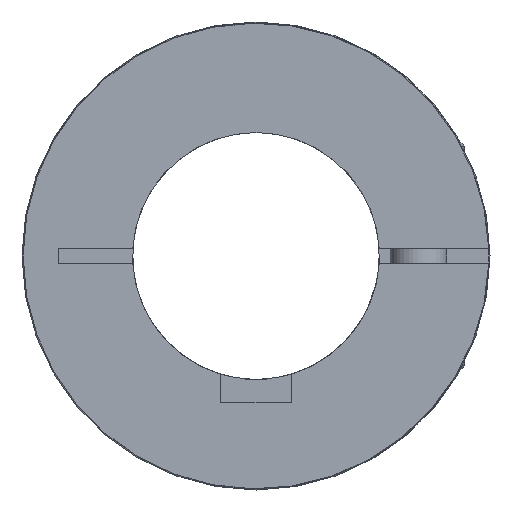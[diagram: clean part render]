
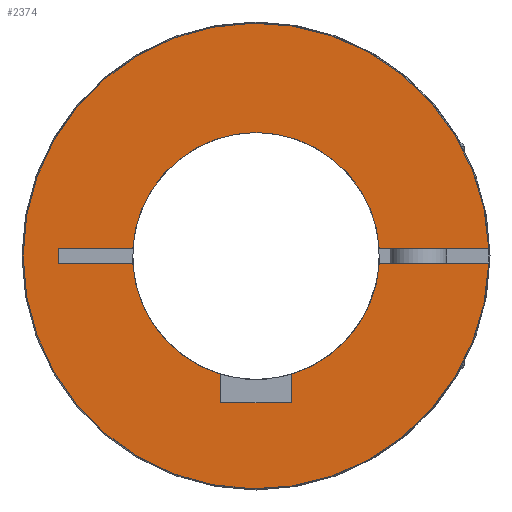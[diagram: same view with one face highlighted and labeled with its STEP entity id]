
A CAD part, left-side view. The second image highlights one B-rep face of the part: STEP entity #2374.
In plain terms, the highlighted planar face has unit normal (-1, 0, 0).
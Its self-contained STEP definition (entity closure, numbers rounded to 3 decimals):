
#24=PLANE('',#2642);
#181=LINE('',#4002,#292);
#184=LINE('',#4008,#295);
#185=LINE('',#4010,#296);
#195=LINE('',#4035,#306);
#198=LINE('',#4045,#309);
#201=LINE('',#4051,#312);
#202=LINE('',#4052,#313);
#203=LINE('',#4054,#314);
#292=VECTOR('',#3147,1.);
#295=VECTOR('',#3152,1.);
#296=VECTOR('',#3155,1.);
#306=VECTOR('',#3181,1000.);
#309=VECTOR('',#3190,1000.);
#312=VECTOR('',#3195,1000.);
#313=VECTOR('',#3196,1000.);
#314=VECTOR('',#3197,1000.);
#435=FACE_OUTER_BOUND('',#580,.T.);
#580=EDGE_LOOP('',(#1768,#1769,#1770,#1771,#1772,#1773,#1774,#1775,#1776,
#1777,#1778,#1779));
#839=CIRCLE('',#2622,17.5);
#841=CIRCLE('',#2624,17.5);
#842=CIRCLE('',#2626,17.5);
#849=CIRCLE('',#2643,33.);
#1064=VERTEX_POINT('',#3963);
#1065=VERTEX_POINT('',#3965);
#1068=VERTEX_POINT('',#3971);
#1069=VERTEX_POINT('',#3973);
#1070=VERTEX_POINT('',#3977);
#1071=VERTEX_POINT('',#3978);
#1078=VERTEX_POINT('',#4000);
#1080=VERTEX_POINT('',#4006);
#1087=VERTEX_POINT('',#4034);
#1091=VERTEX_POINT('',#4044);
#1093=VERTEX_POINT('',#4050);
#1094=VERTEX_POINT('',#4053);
#1344=EDGE_CURVE('',#1065,#1064,#839,.T.);
#1348=EDGE_CURVE('',#1069,#1068,#841,.T.);
#1350=EDGE_CURVE('',#1070,#1071,#842,.T.);
#1359=EDGE_CURVE('',#1068,#1078,#181,.T.);
#1362=EDGE_CURVE('',#1078,#1080,#184,.T.);
#1363=EDGE_CURVE('',#1080,#1065,#185,.T.);
#1376=EDGE_CURVE('',#1069,#1087,#195,.T.);
#1381=EDGE_CURVE('',#1070,#1091,#198,.T.);
#1384=EDGE_CURVE('',#1093,#1064,#201,.T.);
#1385=EDGE_CURVE('',#1093,#1091,#202,.T.);
#1386=EDGE_CURVE('',#1094,#1071,#203,.T.);
#1387=EDGE_CURVE('',#1094,#1087,#849,.T.);
#1768=ORIENTED_EDGE('',*,*,#1348,.T.);
#1769=ORIENTED_EDGE('',*,*,#1359,.T.);
#1770=ORIENTED_EDGE('',*,*,#1362,.T.);
#1771=ORIENTED_EDGE('',*,*,#1363,.T.);
#1772=ORIENTED_EDGE('',*,*,#1344,.T.);
#1773=ORIENTED_EDGE('',*,*,#1384,.F.);
#1774=ORIENTED_EDGE('',*,*,#1385,.T.);
#1775=ORIENTED_EDGE('',*,*,#1381,.F.);
#1776=ORIENTED_EDGE('',*,*,#1350,.T.);
#1777=ORIENTED_EDGE('',*,*,#1386,.F.);
#1778=ORIENTED_EDGE('',*,*,#1387,.T.);
#1779=ORIENTED_EDGE('',*,*,#1376,.F.);
#2374=ADVANCED_FACE('',(#435),#24,.T.);
#2622=AXIS2_PLACEMENT_3D('',#3966,#3125,#3126);
#2624=AXIS2_PLACEMENT_3D('',#3974,#3131,#3132);
#2626=AXIS2_PLACEMENT_3D('',#3979,#3136,#3137);
#2642=AXIS2_PLACEMENT_3D('',#4049,#3193,#3194);
#2643=AXIS2_PLACEMENT_3D('',#4055,#3198,#3199);
#3125=DIRECTION('center_axis',(1.,0.,0.));
#3126=DIRECTION('ref_axis',(0.,0.,-1.));
#3131=DIRECTION('center_axis',(1.,0.,0.));
#3132=DIRECTION('ref_axis',(0.,0.,-1.));
#3136=DIRECTION('center_axis',(1.,0.,0.));
#3137=DIRECTION('ref_axis',(0.,0.,-1.));
#3147=DIRECTION('',(0.,0.,-1.));
#3152=DIRECTION('',(0.,1.,0.));
#3155=DIRECTION('',(0.,0.,1.));
#3181=DIRECTION('',(0.,-1.,0.));
#3190=DIRECTION('',(0.,1.,0.));
#3193=DIRECTION('center_axis',(-1.,0.,0.));
#3194=DIRECTION('ref_axis',(0.,1.,0.));
#3195=DIRECTION('',(0.,-1.,0.));
#3196=DIRECTION('',(0.,0.,1.));
#3197=DIRECTION('',(0.,1.,0.));
#3198=DIRECTION('center_axis',(-1.,0.,0.));
#3199=DIRECTION('ref_axis',(0.,1.,0.));
#3963=CARTESIAN_POINT('',(0.,17.471,-1.));
#3965=CARTESIAN_POINT('',(0.,5.,-16.771));
#3966=CARTESIAN_POINT('Origin',(0.,0.,0.));
#3971=CARTESIAN_POINT('',(0.,-5.,-16.771));
#3973=CARTESIAN_POINT('',(0.,-17.471,-1.));
#3974=CARTESIAN_POINT('Origin',(0.,0.,0.));
#3977=CARTESIAN_POINT('',(0.,17.471,1.));
#3978=CARTESIAN_POINT('',(0.,-17.471,1.));
#3979=CARTESIAN_POINT('Origin',(0.,0.,0.));
#4000=CARTESIAN_POINT('',(0.,-5.,-20.8));
#4002=CARTESIAN_POINT('',(0.,-5.,-8.2));
#4006=CARTESIAN_POINT('',(0.,5.,-20.8));
#4008=CARTESIAN_POINT('',(0.,0.,-20.8));
#4010=CARTESIAN_POINT('',(0.,5.,-8.2));
#4034=CARTESIAN_POINT('',(0.,-32.985,-1.));
#4035=CARTESIAN_POINT('',(0.,0.,-1.));
#4044=CARTESIAN_POINT('',(0.,28.,1.));
#4045=CARTESIAN_POINT('',(0.,0.,1.));
#4049=CARTESIAN_POINT('Origin',(0.,0.,-6.));
#4050=CARTESIAN_POINT('',(0.,28.,-1.));
#4051=CARTESIAN_POINT('',(0.,0.,-1.));
#4052=CARTESIAN_POINT('',(0.,28.,-6.));
#4053=CARTESIAN_POINT('',(0.,-32.985,1.));
#4054=CARTESIAN_POINT('',(0.,0.,1.));
#4055=CARTESIAN_POINT('Origin',(0.,0.,0.));
